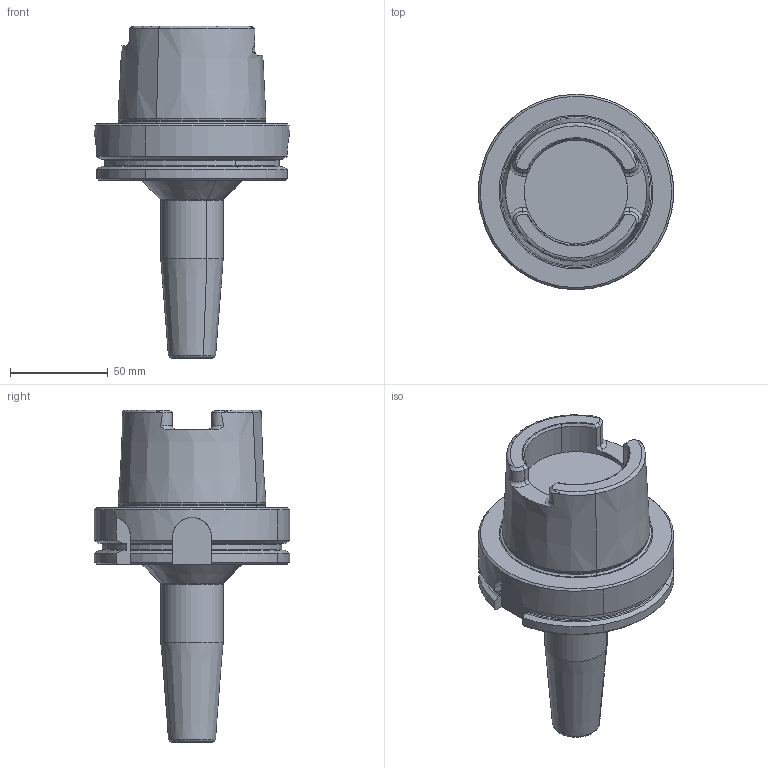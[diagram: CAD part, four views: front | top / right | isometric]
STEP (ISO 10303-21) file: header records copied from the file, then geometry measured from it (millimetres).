
FILE_DESCRIPTION(('CATIA V5 STEP','CAx-IF Rec.Pracs.--- Model Styling and Organization---1.2---2011-12-15'),'2;1');
FILE_NAME('\\nas01\drv1\utils\eitdev\rte\eit\transmagicconvert\db\out\4504214 L.stp','2014-04-03T06:51:36+00:00',('none'),('none'),'CATIA Version 5 Release 21 SP 5 (IN-10)','CATIA V5 STEP AP214','none');
FILE_SCHEMA(('AUTOMOTIVE_DESIGN { 1 0 10303 214 1 1 1 1 }'));
Length unit declared in the file: millimetre
Products named in the file (1): 60977533_0 Holder-Tool HSK A 100 SRKIN 12X120
Bounding box: 100 x 100 x 170 mm (x, y, z)
Volume: 454607.2 mm3; surface area: 46842.8 mm2
Topology: 1 solids, 1 shells, 139 faces, 354 edges, 220 vertices
Faces by surface type: cone 37, plane 37, cylinder 33, torus 32
Entity records: 4159 total; most frequent: CARTESIAN_POINT 1182, ORIENTED_EDGE 708, DIRECTION 445, EDGE_CURVE 354, AXIS2_PLACEMENT_3D 244, VERTEX_POINT 220, CIRCLE 161, EDGE_LOOP 142
